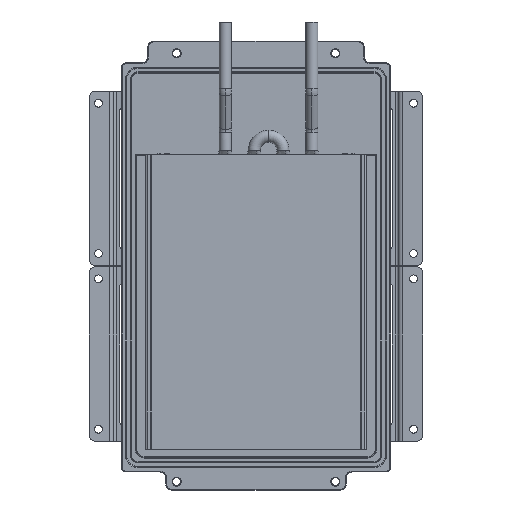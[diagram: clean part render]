
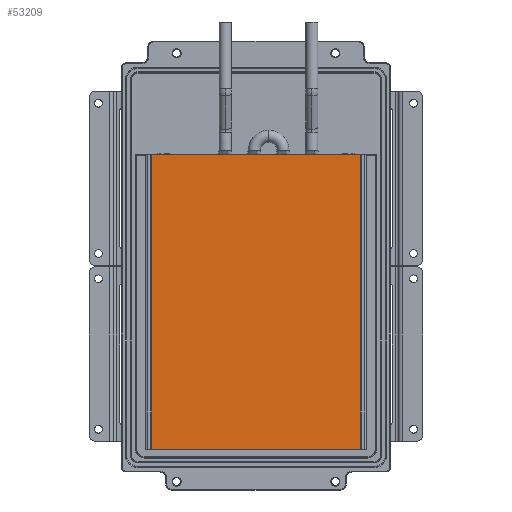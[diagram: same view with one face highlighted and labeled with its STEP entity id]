
A CAD part, front view. The second image highlights one B-rep face of the part: STEP entity #53209.
In plain terms, the highlighted planar face has unit normal (0, -1, 0).
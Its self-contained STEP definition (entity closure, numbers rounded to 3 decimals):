
#33 = PLANE ( 'NONE',  #18824 ) ;
#582 = FACE_OUTER_BOUND ( 'NONE', #8255, .T. ) ;
#3414 = CARTESIAN_POINT ( 'NONE',  ( 89., -21., -151. ) ) ;
#3666 = EDGE_CURVE ( 'NONE', #62221, #78899, #92693, .T. ) ;
#4636 = CARTESIAN_POINT ( 'NONE',  ( -85., -21., -151. ) ) ;
#5336 = ORIENTED_EDGE ( 'NONE', *, *, #46292, .F. ) ;
#8255 = EDGE_LOOP ( 'NONE', ( #30353, #5336, #24163, #58422 ) ) ;
#8722 = VECTOR ( 'NONE', #39214, 1000. ) ;
#9035 = CARTESIAN_POINT ( 'NONE',  ( -85., -21., 94. ) ) ;
#17849 = VECTOR ( 'NONE', #102264, 1000. ) ;
#18824 = AXIS2_PLACEMENT_3D ( 'NONE', #68835, #76084, #93796 ) ;
#24163 = ORIENTED_EDGE ( 'NONE', *, *, #3666, .T. ) ;
#30353 = ORIENTED_EDGE ( 'NONE', *, *, #105710, .T. ) ;
#31697 = DIRECTION ( 'NONE',  ( 0., 0., 1. ) ) ;
#39214 = DIRECTION ( 'NONE',  ( 0., 0., -1. ) ) ;
#41782 = CARTESIAN_POINT ( 'NONE',  ( 89., -21., 94. ) ) ;
#43082 = CARTESIAN_POINT ( 'NONE',  ( 93.5, -21., 94. ) ) ;
#45641 = LINE ( 'NONE', #3414, #17849 ) ;
#46292 = EDGE_CURVE ( 'NONE', #62221, #71001, #45641, .T. ) ;
#48087 = LINE ( 'NONE', #64731, #8722 ) ;
#48909 = CARTESIAN_POINT ( 'NONE',  ( 89., -21., -151. ) ) ;
#49767 = EDGE_CURVE ( 'NONE', #78899, #55866, #93030, .T. ) ;
#53209 = ADVANCED_FACE ( 'NONE', ( #582 ), #33, .F. ) ;
#55866 = VERTEX_POINT ( 'NONE', #9035 ) ;
#58422 = ORIENTED_EDGE ( 'NONE', *, *, #49767, .T. ) ;
#62221 = VERTEX_POINT ( 'NONE', #101079 ) ;
#64731 = CARTESIAN_POINT ( 'NONE',  ( -85., -21., -151. ) ) ;
#68835 = CARTESIAN_POINT ( 'NONE',  ( 93.5, -21., -151. ) ) ;
#71001 = VERTEX_POINT ( 'NONE', #4636 ) ;
#76084 = DIRECTION ( 'NONE',  ( 0., 1., 0. ) ) ;
#76927 = DIRECTION ( 'NONE',  ( -1., 0., 0. ) ) ;
#78899 = VERTEX_POINT ( 'NONE', #41782 ) ;
#85154 = VECTOR ( 'NONE', #31697, 1000. ) ;
#92693 = LINE ( 'NONE', #48909, #85154 ) ;
#93030 = LINE ( 'NONE', #43082, #103353 ) ;
#93796 = DIRECTION ( 'NONE',  ( 1., 0., 0. ) ) ;
#101079 = CARTESIAN_POINT ( 'NONE',  ( 89., -21., -151. ) ) ;
#102264 = DIRECTION ( 'NONE',  ( -1., 0., 0. ) ) ;
#103353 = VECTOR ( 'NONE', #76927, 1000. ) ;
#105710 = EDGE_CURVE ( 'NONE', #55866, #71001, #48087, .T. ) ;
